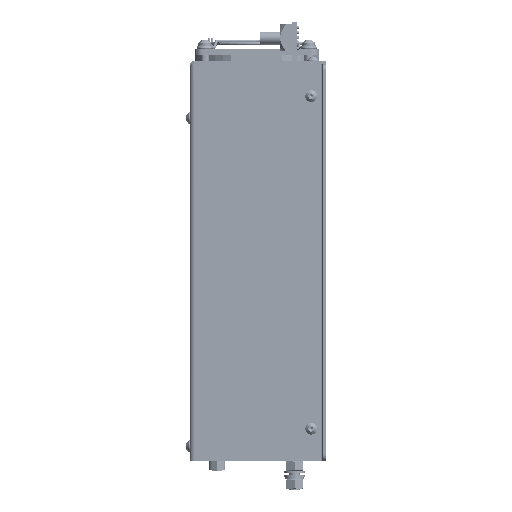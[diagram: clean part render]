
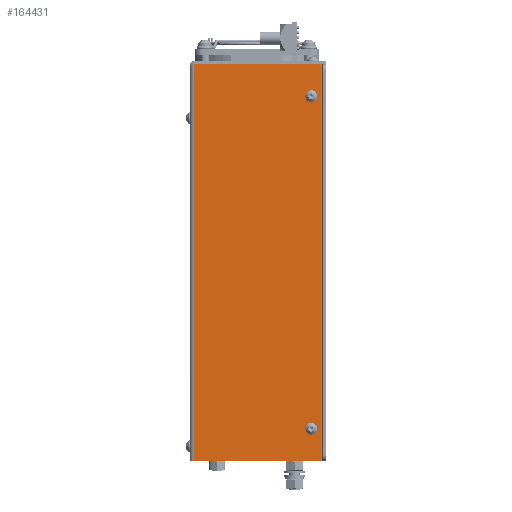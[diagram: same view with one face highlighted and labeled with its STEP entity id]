
A CAD part, left-side view. The second image highlights one B-rep face of the part: STEP entity #164431.
In plain terms, the highlighted planar face has unit normal (-1, 0, 0).
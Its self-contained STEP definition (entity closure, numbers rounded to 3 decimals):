
#3275 = AXIS2_PLACEMENT_3D ( 'NONE', #400149, #425102, #328022 ) ;
#7007 = EDGE_CURVE ( 'NONE', #415065, #24865, #28252, .T. ) ;
#7188 = EDGE_CURVE ( 'NONE', #263546, #317025, #39402, .T. ) ;
#9087 = ORIENTED_EDGE ( 'NONE', *, *, #186534, .F. ) ;
#12676 = DIRECTION ( 'NONE',  ( -1., 0., 0. ) ) ;
#15218 = CIRCLE ( 'NONE', #130805, 1.75 ) ;
#17154 = DIRECTION ( 'NONE',  ( 0., -1., 0. ) ) ;
#18751 = ORIENTED_EDGE ( 'NONE', *, *, #252331, .F. ) ;
#19381 = DIRECTION ( 'NONE',  ( 0., 1., 0. ) ) ;
#24865 = VERTEX_POINT ( 'NONE', #335328 ) ;
#28252 = LINE ( 'NONE', #401128, #296638 ) ;
#36604 = VECTOR ( 'NONE', #274409, 1000. ) ;
#39402 = LINE ( 'NONE', #409920, #202215 ) ;
#39781 = ORIENTED_EDGE ( 'NONE', *, *, #419690, .T. ) ;
#40752 = FACE_BOUND ( 'NONE', #386093, .T. ) ;
#49693 = FACE_BOUND ( 'NONE', #159607, .T. ) ;
#58007 = CARTESIAN_POINT ( 'NONE',  ( 0., -60.75, -17.07 ) ) ;
#66414 = VERTEX_POINT ( 'NONE', #218358 ) ;
#70978 = LINE ( 'NONE', #73211, #36604 ) ;
#73211 = CARTESIAN_POINT ( 'NONE',  ( 0., -59., -178.75 ) ) ;
#75608 = CARTESIAN_POINT ( 'NONE',  ( 0., -59., -178.75 ) ) ;
#78372 = VERTEX_POINT ( 'NONE', #399809 ) ;
#80599 = ORIENTED_EDGE ( 'NONE', *, *, #314173, .F. ) ;
#99299 = DIRECTION ( 'NONE',  ( 0., 1., 0. ) ) ;
#100997 = ORIENTED_EDGE ( 'NONE', *, *, #424037, .F. ) ;
#101855 = AXIS2_PLACEMENT_3D ( 'NONE', #188980, #292856, #326733 ) ;
#102712 = DIRECTION ( 'NONE',  ( -1., 0., 0. ) ) ;
#109599 = DIRECTION ( 'NONE',  ( 0., 0., -1. ) ) ;
#115632 = LINE ( 'NONE', #221725, #187753 ) ;
#119948 = AXIS2_PLACEMENT_3D ( 'NONE', #214801, #352544, #146925 ) ;
#123909 = ORIENTED_EDGE ( 'NONE', *, *, #313189, .F. ) ;
#126294 = VERTEX_POINT ( 'NONE', #75608 ) ;
#130805 = AXIS2_PLACEMENT_3D ( 'NONE', #356221, #12676, #17154 ) ;
#136602 = EDGE_CURVE ( 'NONE', #78372, #415418, #260906, .T. ) ;
#139679 = CARTESIAN_POINT ( 'NONE',  ( 0., -59., -17.07 ) ) ;
#146925 = DIRECTION ( 'NONE',  ( 0., -1., 0. ) ) ;
#157460 = CARTESIAN_POINT ( 'NONE',  ( 0., -2.3, 0. ) ) ;
#159607 = EDGE_LOOP ( 'NONE', ( #100997, #9087, #123909, #233067, #194110 ) ) ;
#159797 = DIRECTION ( 'NONE',  ( 0., -1., 0. ) ) ;
#164210 = CARTESIAN_POINT ( 'NONE',  ( 0., -58., -17.07 ) ) ;
#164431 = ADVANCED_FACE ( 'NONE', ( #40752, #49693, #178598 ), #284814, .T. ) ;
#169413 = VERTEX_POINT ( 'NONE', #58007 ) ;
#170554 = VECTOR ( 'NONE', #306465, 1000. ) ;
#171673 = VECTOR ( 'NONE', #99299, 1000. ) ;
#172389 = CARTESIAN_POINT ( 'NONE',  ( 0., -59., -175.25 ) ) ;
#178598 = FACE_OUTER_BOUND ( 'NONE', #332091, .T. ) ;
#183996 = LINE ( 'NONE', #357940, #292170 ) ;
#186534 = EDGE_CURVE ( 'NONE', #272538, #330587, #115632, .T. ) ;
#187753 = VECTOR ( 'NONE', #291693, 1000. ) ;
#188980 = CARTESIAN_POINT ( 'NONE',  ( 0., -58., -177. ) ) ;
#193268 = EDGE_CURVE ( 'NONE', #169413, #256852, #15218, .T. ) ;
#194110 = ORIENTED_EDGE ( 'NONE', *, *, #193268, .F. ) ;
#196582 = CARTESIAN_POINT ( 'NONE',  ( 0., -59., -15.32 ) ) ;
#198387 = CIRCLE ( 'NONE', #277668, 1.75 ) ;
#202215 = VECTOR ( 'NONE', #416614, 1000. ) ;
#211991 = CARTESIAN_POINT ( 'NONE',  ( 0., -59., -15.32 ) ) ;
#214801 = CARTESIAN_POINT ( 'NONE',  ( 0., 0., 0. ) ) ;
#217404 = ORIENTED_EDGE ( 'NONE', *, *, #7188, .T. ) ;
#218358 = CARTESIAN_POINT ( 'NONE',  ( 0., -58., -178.75 ) ) ;
#220269 = ORIENTED_EDGE ( 'NONE', *, *, #136602, .F. ) ;
#221725 = CARTESIAN_POINT ( 'NONE',  ( 0., -59., -18.82 ) ) ;
#232051 = ORIENTED_EDGE ( 'NONE', *, *, #7007, .F. ) ;
#233067 = ORIENTED_EDGE ( 'NONE', *, *, #426192, .F. ) ;
#241016 = LINE ( 'NONE', #281589, #170554 ) ;
#249734 = CARTESIAN_POINT ( 'NONE',  ( 0., -2.3, -1.571 ) ) ;
#252331 = EDGE_CURVE ( 'NONE', #66414, #126294, #70978, .T. ) ;
#256852 = VERTEX_POINT ( 'NONE', #211991 ) ;
#260906 = CIRCLE ( 'NONE', #303972, 1.75 ) ;
#263546 = VERTEX_POINT ( 'NONE', #414416 ) ;
#263753 = DIRECTION ( 'NONE',  ( -1., 0., 0. ) ) ;
#265848 = DIRECTION ( 'NONE',  ( 0., 0., -1. ) ) ;
#268773 = LINE ( 'NONE', #196582, #171673 ) ;
#269569 = VERTEX_POINT ( 'NONE', #412171 ) ;
#269755 = EDGE_CURVE ( 'NONE', #263546, #415065, #183996, .T. ) ;
#269960 = VERTEX_POINT ( 'NONE', #384486 ) ;
#272538 = VERTEX_POINT ( 'NONE', #362245 ) ;
#274409 = DIRECTION ( 'NONE',  ( 0., -1., 0. ) ) ;
#274949 = ORIENTED_EDGE ( 'NONE', *, *, #348794, .F. ) ;
#277668 = AXIS2_PLACEMENT_3D ( 'NONE', #164210, #263753, #159797 ) ;
#281589 = CARTESIAN_POINT ( 'NONE',  ( 0., -59., -175.25 ) ) ;
#284814 = PLANE ( 'NONE',  #119948 ) ;
#291693 = DIRECTION ( 'NONE',  ( 0., -1., 0. ) ) ;
#292170 = VECTOR ( 'NONE', #109599, 1000. ) ;
#292856 = DIRECTION ( 'NONE',  ( -1., 0., 0. ) ) ;
#295798 = CARTESIAN_POINT ( 'NONE',  ( 0., -63.2, -192.5 ) ) ;
#296638 = VECTOR ( 'NONE', #19381, 1000. ) ;
#303972 = AXIS2_PLACEMENT_3D ( 'NONE', #411976, #102712, #344309 ) ;
#305550 = ORIENTED_EDGE ( 'NONE', *, *, #328229, .F. ) ;
#306465 = DIRECTION ( 'NONE',  ( 0., 1., 0. ) ) ;
#313189 = EDGE_CURVE ( 'NONE', #269569, #272538, #198387, .T. ) ;
#314173 = EDGE_CURVE ( 'NONE', #415418, #269960, #241016, .T. ) ;
#317025 = VERTEX_POINT ( 'NONE', #249734 ) ;
#326733 = DIRECTION ( 'NONE',  ( 0., -1., 0. ) ) ;
#328022 = DIRECTION ( 'NONE',  ( 0., -1., 0. ) ) ;
#328229 = EDGE_CURVE ( 'NONE', #126294, #78372, #428680, .T. ) ;
#330587 = VERTEX_POINT ( 'NONE', #395600 ) ;
#332091 = EDGE_LOOP ( 'NONE', ( #232051, #441581, #217404, #39781 ) ) ;
#335328 = CARTESIAN_POINT ( 'NONE',  ( 0., -2.3, -192.5 ) ) ;
#344309 = DIRECTION ( 'NONE',  ( 0., -1., 0. ) ) ;
#348794 = EDGE_CURVE ( 'NONE', #269960, #66414, #433539, .T. ) ;
#352544 = DIRECTION ( 'NONE',  ( -1., 0., 0. ) ) ;
#356221 = CARTESIAN_POINT ( 'NONE',  ( 0., -59., -17.07 ) ) ;
#357940 = CARTESIAN_POINT ( 'NONE',  ( 0., -63.2, -1.571 ) ) ;
#362245 = CARTESIAN_POINT ( 'NONE',  ( 0., -58., -18.82 ) ) ;
#384486 = CARTESIAN_POINT ( 'NONE',  ( 0., -58., -175.25 ) ) ;
#386093 = EDGE_LOOP ( 'NONE', ( #305550, #18751, #274949, #80599, #220269 ) ) ;
#394274 = AXIS2_PLACEMENT_3D ( 'NONE', #139679, #436204, #404564 ) ;
#395600 = CARTESIAN_POINT ( 'NONE',  ( 0., -59., -18.82 ) ) ;
#399809 = CARTESIAN_POINT ( 'NONE',  ( 0., -60.75, -177. ) ) ;
#400149 = CARTESIAN_POINT ( 'NONE',  ( 0., -59., -177. ) ) ;
#401128 = CARTESIAN_POINT ( 'NONE',  ( 0., -1.5, -192.5 ) ) ;
#404564 = DIRECTION ( 'NONE',  ( 0., -1., 0. ) ) ;
#408613 = CIRCLE ( 'NONE', #394274, 1.75 ) ;
#409920 = CARTESIAN_POINT ( 'NONE',  ( 0., 0., -1.571 ) ) ;
#411976 = CARTESIAN_POINT ( 'NONE',  ( 0., -59., -177. ) ) ;
#412171 = CARTESIAN_POINT ( 'NONE',  ( 0., -58., -15.32 ) ) ;
#414416 = CARTESIAN_POINT ( 'NONE',  ( 0., -63.2, -1.571 ) ) ;
#415065 = VERTEX_POINT ( 'NONE', #295798 ) ;
#415418 = VERTEX_POINT ( 'NONE', #172389 ) ;
#416614 = DIRECTION ( 'NONE',  ( 0., 1., 0. ) ) ;
#419690 = EDGE_CURVE ( 'NONE', #317025, #24865, #437375, .T. ) ;
#424037 = EDGE_CURVE ( 'NONE', #330587, #169413, #408613, .T. ) ;
#425102 = DIRECTION ( 'NONE',  ( -1., 0., 0. ) ) ;
#426192 = EDGE_CURVE ( 'NONE', #256852, #269569, #268773, .T. ) ;
#428680 = CIRCLE ( 'NONE', #3275, 1.75 ) ;
#433539 = CIRCLE ( 'NONE', #101855, 1.75 ) ;
#436204 = DIRECTION ( 'NONE',  ( -1., 0., 0. ) ) ;
#436710 = VECTOR ( 'NONE', #265848, 1000. ) ;
#437375 = LINE ( 'NONE', #157460, #436710 ) ;
#441581 = ORIENTED_EDGE ( 'NONE', *, *, #269755, .F. ) ;
